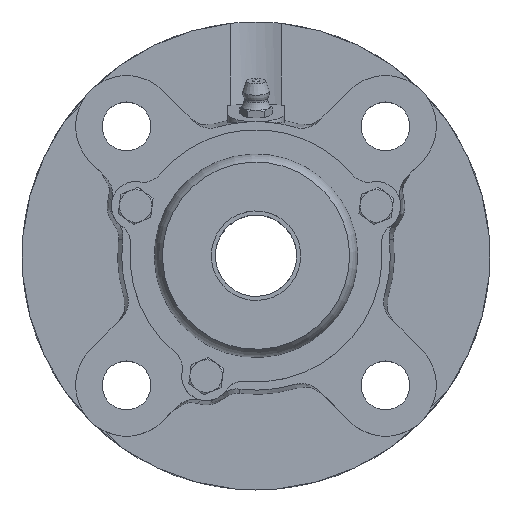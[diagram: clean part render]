
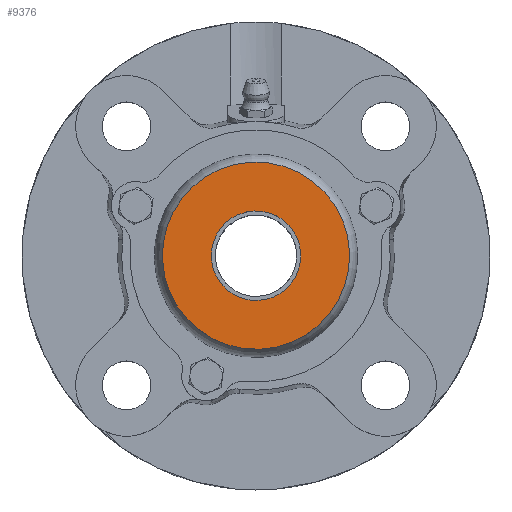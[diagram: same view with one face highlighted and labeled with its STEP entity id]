
A CAD part, top view. The second image highlights one B-rep face of the part: STEP entity #9376.
In plain terms, the highlighted planar face has unit normal (0, 0, 1).
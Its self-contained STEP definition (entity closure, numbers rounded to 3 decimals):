
#8649=CARTESIAN_POINT('',(11.0,0.,26.5));
#8650=VERTEX_POINT('',#8649);
#8651=CARTESIAN_POINT('',(0.0,0.0,26.5));
#8652=DIRECTION('',(0.0,0.0,-1.0));
#8653=DIRECTION('',(-1.0,0.0,0.0));
#8654=AXIS2_PLACEMENT_3D('',#8651,#8652,#8653);
#8655=CIRCLE('',#8654,11.0);
#8656=EDGE_CURVE('',#8650,#8650,#8655,.T.);
#9350=CARTESIAN_POINT('',(0.0,23.0,26.5));
#9351=VERTEX_POINT('',#9350);
#9352=CARTESIAN_POINT('',(0.0,0.,26.5));
#9353=DIRECTION('',(0.0,0.0,1.0));
#9354=DIRECTION('',(0.0,1.0,0.0));
#9355=AXIS2_PLACEMENT_3D('',#9352,#9353,#9354);
#9356=CIRCLE('',#9355,23.);
#9357=EDGE_CURVE('',#9351,#9351,#9356,.T.);
#9365=CARTESIAN_POINT('',(0.,33.344,26.5));
#9366=DIRECTION('',(0.0,0.0,1.0));
#9367=DIRECTION('',(1.0,0.0,0.0));
#9368=AXIS2_PLACEMENT_3D('',#9365,#9366,#9367);
#9369=PLANE('',#9368);
#9370=ORIENTED_EDGE('',*,*,#9357,.T.);
#9371=EDGE_LOOP('',(#9370));
#9372=FACE_OUTER_BOUND('',#9371,.T.);
#9373=ORIENTED_EDGE('',*,*,#8656,.T.);
#9374=EDGE_LOOP('',(#9373));
#9375=FACE_BOUND('',#9374,.T.);
#9376=ADVANCED_FACE('',(#9372,#9375),#9369,.T.);
